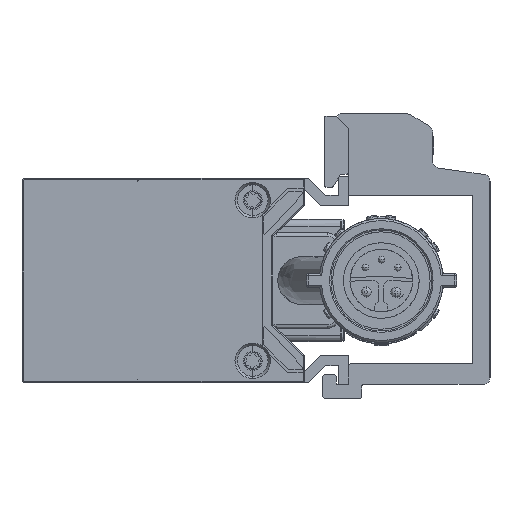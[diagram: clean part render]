
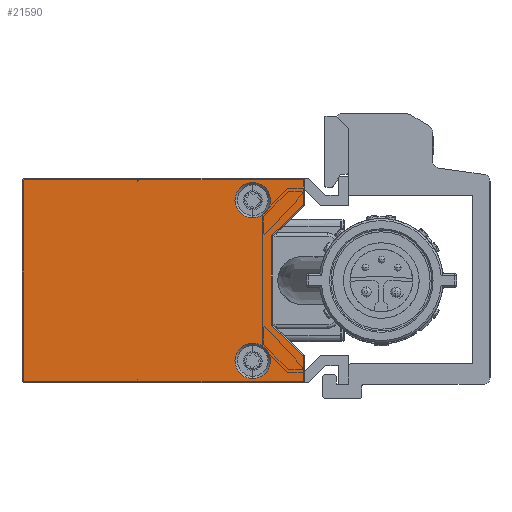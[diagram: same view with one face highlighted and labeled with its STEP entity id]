
A CAD part, left-side view. The second image highlights one B-rep face of the part: STEP entity #21590.
In plain terms, the highlighted planar face has unit normal (-1, 0, 0).
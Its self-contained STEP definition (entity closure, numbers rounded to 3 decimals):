
#81 = EDGE_CURVE ( 'NONE', #5003, #51943, #57256, .T. ) ;
#1164 = CARTESIAN_POINT ( 'NONE',  ( -300., 10.999, -6.415 ) ) ;
#1383 = CIRCLE ( 'NONE', #20280, 2.6 ) ;
#4005 = CARTESIAN_POINT ( 'NONE',  ( -300., 47.8, 14.5 ) ) ;
#4176 = CIRCLE ( 'NONE', #5277, 0.3 ) ;
#4221 = ORIENTED_EDGE ( 'NONE', *, *, #44403, .F. ) ;
#4351 = CIRCLE ( 'NONE', #16996, 0.4 ) ;
#4542 = CARTESIAN_POINT ( 'NONE',  ( -300., 6.7, 14.8 ) ) ;
#4584 = ORIENTED_EDGE ( 'NONE', *, *, #22773, .F. ) ;
#4675 = ORIENTED_EDGE ( 'NONE', *, *, #61533, .T. ) ;
#4893 = DIRECTION ( 'NONE',  ( 0., 0., 1. ) ) ;
#5003 = VERTEX_POINT ( 'NONE', #33828 ) ;
#5277 = AXIS2_PLACEMENT_3D ( 'NONE', #39611, #29353, #14221 ) ;
#5363 = LINE ( 'NONE', #21144, #38566 ) ;
#5719 = EDGE_CURVE ( 'NONE', #18582, #50589, #24433, .T. ) ;
#6261 = DIRECTION ( 'NONE',  ( 0., 1., 0. ) ) ;
#6567 = DIRECTION ( 'NONE',  ( 0., 0., 1. ) ) ;
#7203 = EDGE_CURVE ( 'NONE', #57172, #59405, #1383, .T. ) ;
#7760 = CARTESIAN_POINT ( 'NONE',  ( -300., 47.8, 14.5 ) ) ;
#7763 = ORIENTED_EDGE ( 'NONE', *, *, #7203, .F. ) ;
#8769 = AXIS2_PLACEMENT_3D ( 'NONE', #49415, #9862, #4893 ) ;
#8935 = CARTESIAN_POINT ( 'NONE',  ( -300., 11.399, -6.415 ) ) ;
#9222 = VERTEX_POINT ( 'NONE', #8935 ) ;
#9301 = ORIENTED_EDGE ( 'NONE', *, *, #27077, .F. ) ;
#9423 = CARTESIAN_POINT ( 'NONE',  ( -300., 47.8, -14.5 ) ) ;
#9862 = DIRECTION ( 'NONE',  ( -1., 0., 0. ) ) ;
#10293 = EDGE_CURVE ( 'NONE', #15221, #63411, #61522, .T. ) ;
#11327 = DIRECTION ( 'NONE',  ( -1., 0., 0. ) ) ;
#11542 = DIRECTION ( 'NONE',  ( 1., 0., 0. ) ) ;
#11550 = CARTESIAN_POINT ( 'NONE',  ( -300., 47.5, -14.8 ) ) ;
#11788 = CARTESIAN_POINT ( 'NONE',  ( -300., 10.999, 6.415 ) ) ;
#12819 = CARTESIAN_POINT ( 'NONE',  ( -300., 47.5, 14.8 ) ) ;
#13189 = DIRECTION ( 'NONE',  ( 0., 0., 1. ) ) ;
#13659 = VECTOR ( 'NONE', #43929, 1000. ) ;
#14221 = DIRECTION ( 'NONE',  ( 0., 1., 0. ) ) ;
#15103 = ORIENTED_EDGE ( 'NONE', *, *, #20171, .F. ) ;
#15221 = VERTEX_POINT ( 'NONE', #50263 ) ;
#16442 = CARTESIAN_POINT ( 'NONE',  ( -300., 6.7, 14.8 ) ) ;
#16996 = AXIS2_PLACEMENT_3D ( 'NONE', #1164, #37948, #61837 ) ;
#17240 = CARTESIAN_POINT ( 'NONE',  ( -300., 14.134, 14.4 ) ) ;
#18582 = VERTEX_POINT ( 'NONE', #7760 ) ;
#18917 = AXIS2_PLACEMENT_3D ( 'NONE', #11788, #26899, #56052 ) ;
#20171 = EDGE_CURVE ( 'NONE', #51943, #5003, #40888, .T. ) ;
#20280 = AXIS2_PLACEMENT_3D ( 'NONE', #57906, #43673, #58519 ) ;
#20843 = FACE_OUTER_BOUND ( 'NONE', #57483, .T. ) ;
#21144 = CARTESIAN_POINT ( 'NONE',  ( -300., 6.7, 11.135 ) ) ;
#21257 = ORIENTED_EDGE ( 'NONE', *, *, #49791, .F. ) ;
#21590 = ADVANCED_FACE ( 'NONE', ( #36346, #25478, #20843 ), #45933, .T. ) ;
#21829 = AXIS2_PLACEMENT_3D ( 'NONE', #57073, #11542, #42835 ) ;
#22773 = EDGE_CURVE ( 'NONE', #18582, #46328, #4176, .T. ) ;
#24433 = LINE ( 'NONE', #4005, #13659 ) ;
#25113 = AXIS2_PLACEMENT_3D ( 'NONE', #30753, #11327, #31392 ) ;
#25478 = FACE_BOUND ( 'NONE', #52609, .T. ) ;
#25526 = ORIENTED_EDGE ( 'NONE', *, *, #55314, .T. ) ;
#26338 = LINE ( 'NONE', #11550, #44175 ) ;
#26667 = CARTESIAN_POINT ( 'NONE',  ( -300., 6.7, -11.135 ) ) ;
#26899 = DIRECTION ( 'NONE',  ( -1., 0., 0. ) ) ;
#27077 = EDGE_CURVE ( 'NONE', #56658, #50589, #65032, .T. ) ;
#28323 = EDGE_CURVE ( 'NONE', #56295, #46328, #51456, .T. ) ;
#28340 = EDGE_CURVE ( 'NONE', #56658, #64808, #26338, .T. ) ;
#28823 = DIRECTION ( 'NONE',  ( 0., 0., -1. ) ) ;
#29353 = DIRECTION ( 'NONE',  ( 1., 0., 0. ) ) ;
#29825 = EDGE_LOOP ( 'NONE', ( #50170, #15103 ) ) ;
#30753 = CARTESIAN_POINT ( 'NONE',  ( -300., 11.199, 0. ) ) ;
#31049 = VECTOR ( 'NONE', #40725, 1000. ) ;
#31392 = DIRECTION ( 'NONE',  ( 0., 0., 1. ) ) ;
#32105 = ORIENTED_EDGE ( 'NONE', *, *, #28323, .T. ) ;
#32979 = LINE ( 'NONE', #63038, #53071 ) ;
#33009 = ORIENTED_EDGE ( 'NONE', *, *, #58870, .T. ) ;
#33441 = EDGE_CURVE ( 'NONE', #59405, #57172, #52155, .T. ) ;
#33828 = CARTESIAN_POINT ( 'NONE',  ( -300., 14.134, -9.2 ) ) ;
#34167 = AXIS2_PLACEMENT_3D ( 'NONE', #54315, #54998, #28823 ) ;
#35882 = CARTESIAN_POINT ( 'NONE',  ( -300., 11.399, -6.415 ) ) ;
#36125 = ORIENTED_EDGE ( 'NONE', *, *, #10293, .F. ) ;
#36140 = CARTESIAN_POINT ( 'NONE',  ( -300., 6.7, 11.135 ) ) ;
#36346 = FACE_BOUND ( 'NONE', #29825, .T. ) ;
#36402 = VECTOR ( 'NONE', #6567, 1000. ) ;
#37948 = DIRECTION ( 'NONE',  ( -1., 0., 0. ) ) ;
#38566 = VECTOR ( 'NONE', #45580, 1000. ) ;
#38878 = VECTOR ( 'NONE', #6261, 1000. ) ;
#39410 = DIRECTION ( 'NONE',  ( 0., -1., 0. ) ) ;
#39611 = CARTESIAN_POINT ( 'NONE',  ( -300., 47.5, 14.5 ) ) ;
#40160 = CARTESIAN_POINT ( 'NONE',  ( -300., 14.134, 9.2 ) ) ;
#40689 = DIRECTION ( 'NONE',  ( 0., 0., -1. ) ) ;
#40725 = DIRECTION ( 'NONE',  ( 0., -0.718, -0.696 ) ) ;
#40888 = CIRCLE ( 'NONE', #47256, 2.6 ) ;
#40930 = CARTESIAN_POINT ( 'NONE',  ( -300., 47.5, -14.8 ) ) ;
#42101 = DIRECTION ( 'NONE',  ( 0., 0., 1. ) ) ;
#42743 = LINE ( 'NONE', #35882, #36402 ) ;
#42835 = DIRECTION ( 'NONE',  ( 0., 0., -1. ) ) ;
#42946 = CARTESIAN_POINT ( 'NONE',  ( -300., 6.7, 11.135 ) ) ;
#43673 = DIRECTION ( 'NONE',  ( -1., 0., 0. ) ) ;
#43929 = DIRECTION ( 'NONE',  ( 0., 0., -1. ) ) ;
#44175 = VECTOR ( 'NONE', #39410, 1000. ) ;
#44403 = EDGE_CURVE ( 'NONE', #64036, #45304, #5363, .T. ) ;
#45304 = VERTEX_POINT ( 'NONE', #64499 ) ;
#45396 = ORIENTED_EDGE ( 'NONE', *, *, #5719, .T. ) ;
#45580 = DIRECTION ( 'NONE',  ( 0., 0.718, -0.696 ) ) ;
#45673 = CARTESIAN_POINT ( 'NONE',  ( -300., 11.278, -6.703 ) ) ;
#45933 = PLANE ( 'NONE',  #25113 ) ;
#46328 = VERTEX_POINT ( 'NONE', #12819 ) ;
#46669 = CARTESIAN_POINT ( 'NONE',  ( -300., 11.399, 6.415 ) ) ;
#47256 = AXIS2_PLACEMENT_3D ( 'NONE', #57211, #61820, #40689 ) ;
#48464 = ORIENTED_EDGE ( 'NONE', *, *, #28340, .T. ) ;
#49415 = CARTESIAN_POINT ( 'NONE',  ( -300., 14.134, -11.8 ) ) ;
#49791 = EDGE_CURVE ( 'NONE', #9222, #15221, #4351, .T. ) ;
#50170 = ORIENTED_EDGE ( 'NONE', *, *, #81, .F. ) ;
#50263 = CARTESIAN_POINT ( 'NONE',  ( -300., 11.278, -6.703 ) ) ;
#50589 = VERTEX_POINT ( 'NONE', #9423 ) ;
#51456 = LINE ( 'NONE', #16442, #38878 ) ;
#51652 = CARTESIAN_POINT ( 'NONE',  ( -300., 6.7, -14.8 ) ) ;
#51943 = VERTEX_POINT ( 'NONE', #61860 ) ;
#52008 = LINE ( 'NONE', #36140, #56859 ) ;
#52155 = CIRCLE ( 'NONE', #34167, 2.6 ) ;
#52609 = EDGE_LOOP ( 'NONE', ( #7763, #64129 ) ) ;
#52930 = VERTEX_POINT ( 'NONE', #46669 ) ;
#53071 = VECTOR ( 'NONE', #13189, 1000. ) ;
#54315 = CARTESIAN_POINT ( 'NONE',  ( -300., 14.134, 11.8 ) ) ;
#54998 = DIRECTION ( 'NONE',  ( -1., 0., 0. ) ) ;
#55314 = EDGE_CURVE ( 'NONE', #9222, #52930, #42743, .T. ) ;
#55422 = ORIENTED_EDGE ( 'NONE', *, *, #59474, .F. ) ;
#56052 = DIRECTION ( 'NONE',  ( 0., 0.696, 0.718 ) ) ;
#56295 = VERTEX_POINT ( 'NONE', #4542 ) ;
#56658 = VERTEX_POINT ( 'NONE', #40930 ) ;
#56859 = VECTOR ( 'NONE', #42101, 1000. ) ;
#57073 = CARTESIAN_POINT ( 'NONE',  ( -300., 47.5, -14.5 ) ) ;
#57172 = VERTEX_POINT ( 'NONE', #17240 ) ;
#57211 = CARTESIAN_POINT ( 'NONE',  ( -300., 14.134, -11.8 ) ) ;
#57256 = CIRCLE ( 'NONE', #8769, 2.6 ) ;
#57483 = EDGE_LOOP ( 'NONE', ( #33009, #32105, #4584, #45396, #9301, #48464, #4675, #36125, #21257, #25526, #55422, #4221 ) ) ;
#57906 = CARTESIAN_POINT ( 'NONE',  ( -300., 14.134, 11.8 ) ) ;
#58519 = DIRECTION ( 'NONE',  ( 0., 0., 1. ) ) ;
#58870 = EDGE_CURVE ( 'NONE', #64036, #56295, #52008, .T. ) ;
#59405 = VERTEX_POINT ( 'NONE', #40160 ) ;
#59474 = EDGE_CURVE ( 'NONE', #45304, #52930, #60089, .T. ) ;
#60089 = CIRCLE ( 'NONE', #18917, 0.4 ) ;
#61522 = LINE ( 'NONE', #45673, #31049 ) ;
#61533 = EDGE_CURVE ( 'NONE', #64808, #63411, #32979, .T. ) ;
#61820 = DIRECTION ( 'NONE',  ( -1., 0., 0. ) ) ;
#61837 = DIRECTION ( 'NONE',  ( 0., 1., 0. ) ) ;
#61860 = CARTESIAN_POINT ( 'NONE',  ( -300., 14.134, -14.4 ) ) ;
#63038 = CARTESIAN_POINT ( 'NONE',  ( -300., 6.7, -14.8 ) ) ;
#63411 = VERTEX_POINT ( 'NONE', #26667 ) ;
#64036 = VERTEX_POINT ( 'NONE', #42946 ) ;
#64129 = ORIENTED_EDGE ( 'NONE', *, *, #33441, .F. ) ;
#64499 = CARTESIAN_POINT ( 'NONE',  ( -300., 11.278, 6.703 ) ) ;
#64808 = VERTEX_POINT ( 'NONE', #51652 ) ;
#65032 = CIRCLE ( 'NONE', #21829, 0.3 ) ;
